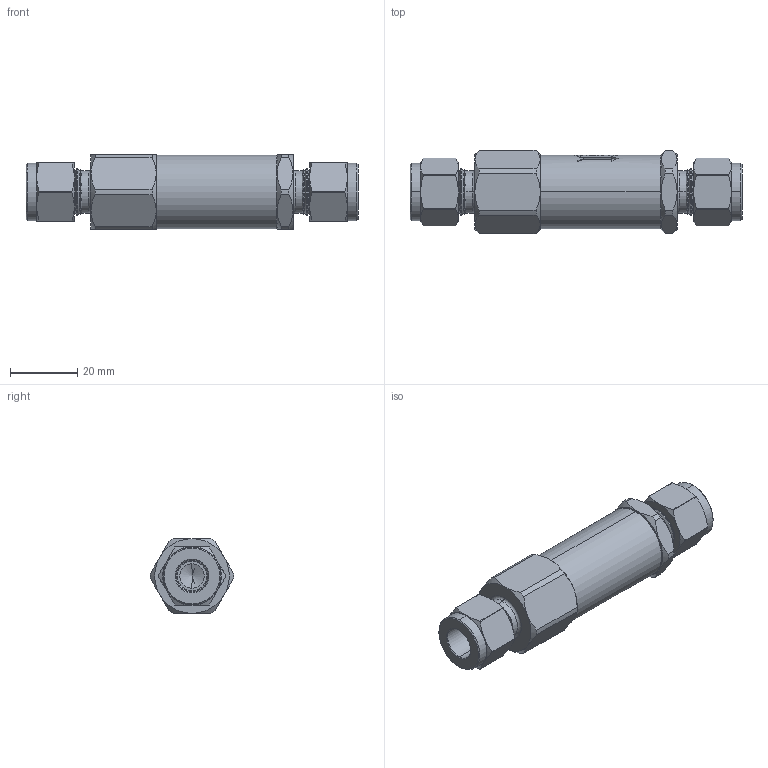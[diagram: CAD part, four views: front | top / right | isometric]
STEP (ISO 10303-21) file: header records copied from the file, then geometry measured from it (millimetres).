
FILE_DESCRIPTION (( 'STEP AP203' ), '1' );
FILE_NAME ('CRV6T-6T.STEP', '2025-02-27T18:24:07', ( '' ), ( '' ), 'SwSTEP 2.0', 'SolidWorks 2020', '' );
FILE_SCHEMA (( 'CONFIG_CONTROL_DESIGN' ));
Length unit declared in the file: inch
Products named in the file (2): CRV6T-6T; Part3^CRV6T-6T_CM
Assembly tree (1 placements, depth 2):
  CRV6T-6T
    Part3^CRV6T-6T_CM
Bounding box: 98.76 x 24.76 x 22.23 mm (x, y, z)
Volume: 29324.5 mm3; surface area: 9206.5 mm2
Topology: 1 solids, 1 shells, 415 faces, 1050 edges, 668 vertices
Faces by surface type: plane 166, cone 90, cylinder 81, bspline 70, torus 8
Entity records: 17393 total; most frequent: CARTESIAN_POINT 7824, ORIENTED_EDGE 2092, DIRECTION 1734, EDGE_CURVE 1046, AXIS2_PLACEMENT_3D 673, VERTEX_POINT 668, EDGE_LOOP 450, ADVANCED_FACE 415
